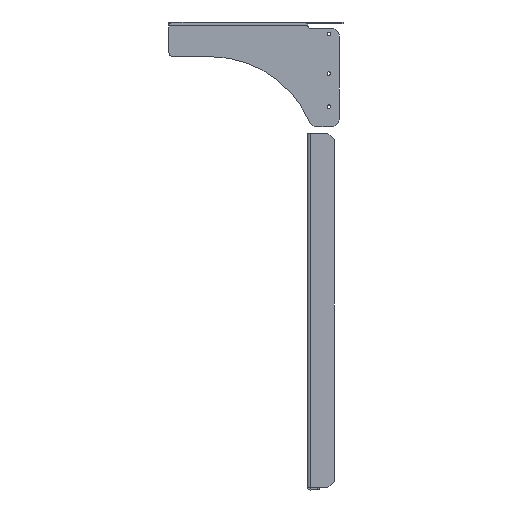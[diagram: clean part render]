
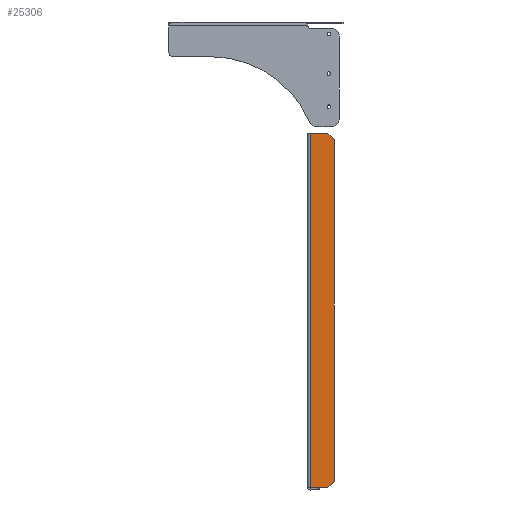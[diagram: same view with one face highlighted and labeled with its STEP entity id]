
A CAD part, left-side view. The second image highlights one B-rep face of the part: STEP entity #25306.
In plain terms, the highlighted planar face has unit normal (-1, 0, 0).
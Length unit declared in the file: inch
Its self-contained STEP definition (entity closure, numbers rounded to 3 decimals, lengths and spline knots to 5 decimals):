
#32 = LINE ( 'NONE', #15512, #19178 ) ;
#160 = VERTEX_POINT ( 'NONE', #8450 ) ;
#1054 = PLANE ( 'NONE',  #28951 ) ;
#1086 = VERTEX_POINT ( 'NONE', #13521 ) ;
#1563 = ORIENTED_EDGE ( 'NONE', *, *, #16813, .F. ) ;
#1965 = ORIENTED_EDGE ( 'NONE', *, *, #13476, .T. ) ;
#3247 = VECTOR ( 'NONE', #27176, 39.37008 ) ;
#4132 = EDGE_CURVE ( 'NONE', #160, #15929, #28582, .T. ) ;
#4339 = CARTESIAN_POINT ( 'NONE',  ( -17.66, -3.81305, -7.1 ) ) ;
#4630 = DIRECTION ( 'NONE',  ( 0., -0.707, 0.707 ) ) ;
#4672 = ORIENTED_EDGE ( 'NONE', *, *, #4132, .T. ) ;
#5153 = ORIENTED_EDGE ( 'NONE', *, *, #12249, .T. ) ;
#8450 = CARTESIAN_POINT ( 'NONE',  ( -17.66, -3.41333, -28.1 ) ) ;
#10197 = CARTESIAN_POINT ( 'NONE',  ( -17.66, -3.81305, -7.1 ) ) ;
#10989 = VECTOR ( 'NONE', #12975, 39.37008 ) ;
#11109 = CARTESIAN_POINT ( 'NONE',  ( -17.66, -4.81297, -1.09998 ) ) ;
#11781 = LINE ( 'NONE', #20382, #10989 ) ;
#12133 = VERTEX_POINT ( 'NONE', #4339 ) ;
#12249 = EDGE_CURVE ( 'NONE', #20263, #30964, #21374, .T. ) ;
#12718 = DIRECTION ( 'NONE',  ( 0., 0., 1. ) ) ;
#12889 = CARTESIAN_POINT ( 'NONE',  ( -17.66, -2.34205, -6.70002 ) ) ;
#12975 = DIRECTION ( 'NONE',  ( 0., -1., 0. ) ) ;
#13476 = EDGE_CURVE ( 'NONE', #15929, #12133, #18196, .T. ) ;
#13521 = CARTESIAN_POINT ( 'NONE',  ( -17.66, -2.34233, -28.10002 ) ) ;
#13639 = DIRECTION ( 'NONE',  ( 1., 0., 0. ) ) ;
#14768 = VECTOR ( 'NONE', #22333, 39.37008 ) ;
#15512 = CARTESIAN_POINT ( 'NONE',  ( -17.66, -2.34197, -1.10002 ) ) ;
#15769 = EDGE_CURVE ( 'NONE', #12133, #20263, #29809, .T. ) ;
#15929 = VERTEX_POINT ( 'NONE', #19172 ) ;
#16813 = EDGE_CURVE ( 'NONE', #1086, #30964, #32, .T. ) ;
#17425 = EDGE_CURVE ( 'NONE', #1086, #160, #11781, .T. ) ;
#17999 = DIRECTION ( 'NONE',  ( 0., 0., 1. ) ) ;
#18196 = LINE ( 'NONE', #10197, #30714 ) ;
#19172 = CARTESIAN_POINT ( 'NONE',  ( -17.66, -3.81333, -27.7 ) ) ;
#19178 = VECTOR ( 'NONE', #17999, 39.37008 ) ;
#20263 = VERTEX_POINT ( 'NONE', #29625 ) ;
#20382 = CARTESIAN_POINT ( 'NONE',  ( -17.66, -4.81333, -28.09998 ) ) ;
#21374 = LINE ( 'NONE', #27227, #14768 ) ;
#21929 = VECTOR ( 'NONE', #4630, 39.37008 ) ;
#22333 = DIRECTION ( 'NONE',  ( 0., 1., 0. ) ) ;
#25306 = ADVANCED_FACE ( 'NONE', ( #28936 ), #1054, .F. ) ;
#26925 = ORIENTED_EDGE ( 'NONE', *, *, #17425, .T. ) ;
#27001 = CARTESIAN_POINT ( 'NONE',  ( -17.66, -3.81333, -27.7 ) ) ;
#27176 = DIRECTION ( 'NONE',  ( 0., 0.707, 0.707 ) ) ;
#27227 = CARTESIAN_POINT ( 'NONE',  ( -17.66, -0.72553, -6.70004 ) ) ;
#28582 = LINE ( 'NONE', #27001, #21929 ) ;
#28936 = FACE_OUTER_BOUND ( 'NONE', #28963, .T. ) ;
#28951 = AXIS2_PLACEMENT_3D ( 'NONE', #11109, #13639, #31082 ) ;
#28963 = EDGE_LOOP ( 'NONE', ( #26925, #4672, #1965, #30852, #5153, #1563 ) ) ;
#29625 = CARTESIAN_POINT ( 'NONE',  ( -17.66, -3.41305, -6.7 ) ) ;
#29711 = CARTESIAN_POINT ( 'NONE',  ( -17.66, -3.41305, -6.7 ) ) ;
#29809 = LINE ( 'NONE', #29711, #3247 ) ;
#30714 = VECTOR ( 'NONE', #12718, 39.37008 ) ;
#30852 = ORIENTED_EDGE ( 'NONE', *, *, #15769, .T. ) ;
#30964 = VERTEX_POINT ( 'NONE', #12889 ) ;
#31082 = DIRECTION ( 'NONE',  ( 0., 1., 0. ) ) ;
